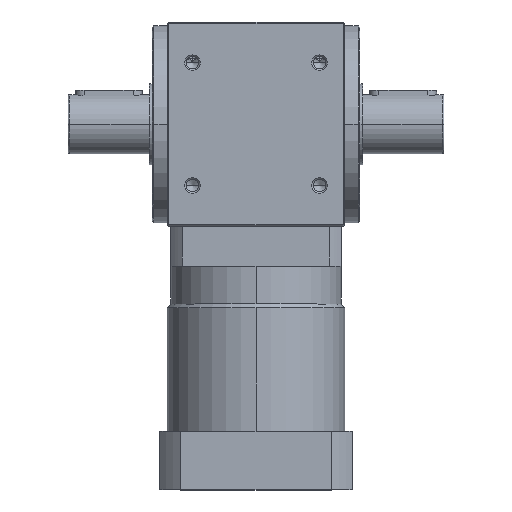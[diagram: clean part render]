
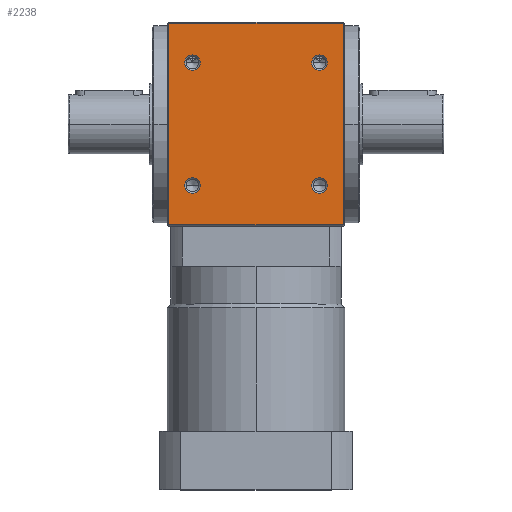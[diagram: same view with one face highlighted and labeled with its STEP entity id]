
A CAD part, top view. The second image highlights one B-rep face of the part: STEP entity #2238.
In plain terms, the highlighted planar face has unit normal (0, 0, 1).
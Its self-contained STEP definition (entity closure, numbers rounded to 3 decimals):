
#57 = EDGE_LOOP ( 'NONE', ( #382, #8778 ) ) ;
#133 = DIRECTION ( 'NONE',  ( 0., 0., 1. ) ) ;
#287 = CIRCLE ( 'NONE', #5267, 5.25 ) ;
#382 = ORIENTED_EDGE ( 'NONE', *, *, #9035, .F. ) ;
#434 = AXIS2_PLACEMENT_3D ( 'NONE', #2415, #2321, #2285 ) ;
#458 = CARTESIAN_POINT ( 'NONE',  ( -43., -41.5, 69. ) ) ;
#471 = CARTESIAN_POINT ( 'NONE',  ( 59., -68., 69. ) ) ;
#666 = LINE ( 'NONE', #9053, #4865 ) ;
#813 = CARTESIAN_POINT ( 'NONE',  ( 37.75, 41.5, 69. ) ) ;
#855 = CARTESIAN_POINT ( 'NONE',  ( -48.25, -41.5, 69. ) ) ;
#885 = CARTESIAN_POINT ( 'NONE',  ( 43., 41.5, 69. ) ) ;
#886 = CARTESIAN_POINT ( 'NONE',  ( 48.25, 41.5, 69. ) ) ;
#967 = VERTEX_POINT ( 'NONE', #1189 ) ;
#1077 = EDGE_CURVE ( 'NONE', #967, #8179, #3300, .T. ) ;
#1136 = AXIS2_PLACEMENT_3D ( 'NONE', #4884, #133, #5652 ) ;
#1189 = CARTESIAN_POINT ( 'NONE',  ( 59., 68., 69. ) ) ;
#1227 = CIRCLE ( 'NONE', #1136, 5.25 ) ;
#1266 = DIRECTION ( 'NONE',  ( 1., 0., 0. ) ) ;
#1325 = FACE_BOUND ( 'NONE', #3875, .T. ) ;
#1341 = CARTESIAN_POINT ( 'NONE',  ( 43., -41.5, 69. ) ) ;
#1537 = CARTESIAN_POINT ( 'NONE',  ( -48.25, 41.5, 69. ) ) ;
#1689 = DIRECTION ( 'NONE',  ( 1., 0., 0. ) ) ;
#1775 = EDGE_LOOP ( 'NONE', ( #4112, #4363 ) ) ;
#1859 = CARTESIAN_POINT ( 'NONE',  ( 43., -41.5, 69. ) ) ;
#2012 = CIRCLE ( 'NONE', #3507, 5.25 ) ;
#2043 = ORIENTED_EDGE ( 'NONE', *, *, #9540, .F. ) ;
#2142 = DIRECTION ( 'NONE',  ( 1., 0., 0. ) ) ;
#2150 = DIRECTION ( 'NONE',  ( 1., 0., 0. ) ) ;
#2160 = CARTESIAN_POINT ( 'NONE',  ( -59., 68., 69. ) ) ;
#2238 = ADVANCED_FACE ( 'NONE', ( #7091, #7346, #1325, #5031, #2962 ), #3016, .F. ) ;
#2273 = VERTEX_POINT ( 'NONE', #886 ) ;
#2285 = DIRECTION ( 'NONE',  ( 0., 1., 0. ) ) ;
#2321 = DIRECTION ( 'NONE',  ( 0., 0., -1. ) ) ;
#2374 = CARTESIAN_POINT ( 'NONE',  ( -37.75, 41.5, 69. ) ) ;
#2415 = CARTESIAN_POINT ( 'NONE',  ( 60., 69., 69. ) ) ;
#2420 = DIRECTION ( 'NONE',  ( 0., 1., 0. ) ) ;
#2655 = DIRECTION ( 'NONE',  ( 1., 0., 0. ) ) ;
#2888 = VERTEX_POINT ( 'NONE', #855 ) ;
#2939 = ORIENTED_EDGE ( 'NONE', *, *, #6946, .F. ) ;
#2962 = FACE_BOUND ( 'NONE', #57, .T. ) ;
#3016 = PLANE ( 'NONE',  #434 ) ;
#3053 = VECTOR ( 'NONE', #2142, 1000. ) ;
#3096 = VERTEX_POINT ( 'NONE', #5060 ) ;
#3150 = CARTESIAN_POINT ( 'NONE',  ( -59., -68., 69. ) ) ;
#3293 = VERTEX_POINT ( 'NONE', #813 ) ;
#3300 = LINE ( 'NONE', #7747, #6956 ) ;
#3448 = EDGE_CURVE ( 'NONE', #9143, #4339, #287, .T. ) ;
#3507 = AXIS2_PLACEMENT_3D ( 'NONE', #8263, #3573, #9047 ) ;
#3573 = DIRECTION ( 'NONE',  ( 0., 0., 1. ) ) ;
#3703 = CARTESIAN_POINT ( 'NONE',  ( 37.75, -41.5, 69. ) ) ;
#3875 = EDGE_LOOP ( 'NONE', ( #7558, #5738 ) ) ;
#4092 = EDGE_LOOP ( 'NONE', ( #9640, #2043, #6463, #9039 ) ) ;
#4112 = ORIENTED_EDGE ( 'NONE', *, *, #9109, .F. ) ;
#4205 = DIRECTION ( 'NONE',  ( 0., 0., 1. ) ) ;
#4323 = DIRECTION ( 'NONE',  ( 0., 0., 1. ) ) ;
#4339 = VERTEX_POINT ( 'NONE', #7067 ) ;
#4350 = EDGE_CURVE ( 'NONE', #5965, #8298, #9129, .T. ) ;
#4363 = ORIENTED_EDGE ( 'NONE', *, *, #3448, .F. ) ;
#4370 = DIRECTION ( 'NONE',  ( 1., 0., 0. ) ) ;
#4633 = EDGE_LOOP ( 'NONE', ( #7440, #2939 ) ) ;
#4731 = VECTOR ( 'NONE', #2420, 1000. ) ;
#4766 = EDGE_CURVE ( 'NONE', #3293, #2273, #2012, .T. ) ;
#4865 = VECTOR ( 'NONE', #4370, 1000. ) ;
#4884 = CARTESIAN_POINT ( 'NONE',  ( -43., -41.5, 69. ) ) ;
#4936 = VERTEX_POINT ( 'NONE', #1537 ) ;
#5031 = FACE_BOUND ( 'NONE', #1775, .T. ) ;
#5060 = CARTESIAN_POINT ( 'NONE',  ( -37.75, -41.5, 69. ) ) ;
#5136 = AXIS2_PLACEMENT_3D ( 'NONE', #8896, #4205, #9663 ) ;
#5267 = AXIS2_PLACEMENT_3D ( 'NONE', #1859, #7332, #2655 ) ;
#5652 = DIRECTION ( 'NONE',  ( 1., 0., 0. ) ) ;
#5738 = ORIENTED_EDGE ( 'NONE', *, *, #4766, .F. ) ;
#5838 = DIRECTION ( 'NONE',  ( 0., -1., 0. ) ) ;
#5965 = VERTEX_POINT ( 'NONE', #3150 ) ;
#5975 = DIRECTION ( 'NONE',  ( 0., 0., 1. ) ) ;
#6028 = CARTESIAN_POINT ( 'NONE',  ( 60., -68., 69. ) ) ;
#6373 = AXIS2_PLACEMENT_3D ( 'NONE', #885, #6378, #1689 ) ;
#6378 = DIRECTION ( 'NONE',  ( 0., 0., 1. ) ) ;
#6463 = ORIENTED_EDGE ( 'NONE', *, *, #4350, .F. ) ;
#6528 = EDGE_CURVE ( 'NONE', #5965, #8179, #9282, .T. ) ;
#6670 = CIRCLE ( 'NONE', #6876, 5.25 ) ;
#6834 = DIRECTION ( 'NONE',  ( 0., 0., 1. ) ) ;
#6876 = AXIS2_PLACEMENT_3D ( 'NONE', #9008, #4323, #9783 ) ;
#6946 = EDGE_CURVE ( 'NONE', #4936, #8507, #6670, .T. ) ;
#6956 = VECTOR ( 'NONE', #5838, 1000. ) ;
#7067 = CARTESIAN_POINT ( 'NONE',  ( 48.25, -41.5, 69. ) ) ;
#7091 = FACE_OUTER_BOUND ( 'NONE', #4092, .T. ) ;
#7097 = CARTESIAN_POINT ( 'NONE',  ( -59., 69., 69. ) ) ;
#7202 = EDGE_CURVE ( 'NONE', #2888, #3096, #1227, .T. ) ;
#7332 = DIRECTION ( 'NONE',  ( 0., 0., 1. ) ) ;
#7346 = FACE_BOUND ( 'NONE', #4633, .T. ) ;
#7440 = ORIENTED_EDGE ( 'NONE', *, *, #9417, .F. ) ;
#7558 = ORIENTED_EDGE ( 'NONE', *, *, #9300, .F. ) ;
#7622 = AXIS2_PLACEMENT_3D ( 'NONE', #458, #5975, #1266 ) ;
#7747 = CARTESIAN_POINT ( 'NONE',  ( 59., 69., 69. ) ) ;
#8066 = CIRCLE ( 'NONE', #9723, 5.25 ) ;
#8179 = VERTEX_POINT ( 'NONE', #471 ) ;
#8263 = CARTESIAN_POINT ( 'NONE',  ( 43., 41.5, 69. ) ) ;
#8298 = VERTEX_POINT ( 'NONE', #2160 ) ;
#8311 = CIRCLE ( 'NONE', #7622, 5.25 ) ;
#8507 = VERTEX_POINT ( 'NONE', #2374 ) ;
#8778 = ORIENTED_EDGE ( 'NONE', *, *, #7202, .F. ) ;
#8896 = CARTESIAN_POINT ( 'NONE',  ( -43., 41.5, 69. ) ) ;
#9008 = CARTESIAN_POINT ( 'NONE',  ( -43., 41.5, 69. ) ) ;
#9035 = EDGE_CURVE ( 'NONE', #3096, #2888, #8311, .T. ) ;
#9039 = ORIENTED_EDGE ( 'NONE', *, *, #6528, .T. ) ;
#9047 = DIRECTION ( 'NONE',  ( 1., 0., 0. ) ) ;
#9053 = CARTESIAN_POINT ( 'NONE',  ( 60., 68., 69. ) ) ;
#9109 = EDGE_CURVE ( 'NONE', #4339, #9143, #8066, .T. ) ;
#9129 = LINE ( 'NONE', #7097, #4731 ) ;
#9143 = VERTEX_POINT ( 'NONE', #3703 ) ;
#9155 = CIRCLE ( 'NONE', #5136, 5.25 ) ;
#9282 = LINE ( 'NONE', #6028, #3053 ) ;
#9300 = EDGE_CURVE ( 'NONE', #2273, #3293, #9770, .T. ) ;
#9417 = EDGE_CURVE ( 'NONE', #8507, #4936, #9155, .T. ) ;
#9540 = EDGE_CURVE ( 'NONE', #8298, #967, #666, .T. ) ;
#9640 = ORIENTED_EDGE ( 'NONE', *, *, #1077, .F. ) ;
#9663 = DIRECTION ( 'NONE',  ( 1., 0., 0. ) ) ;
#9723 = AXIS2_PLACEMENT_3D ( 'NONE', #1341, #6834, #2150 ) ;
#9770 = CIRCLE ( 'NONE', #6373, 5.25 ) ;
#9783 = DIRECTION ( 'NONE',  ( 1., 0., 0. ) ) ;
